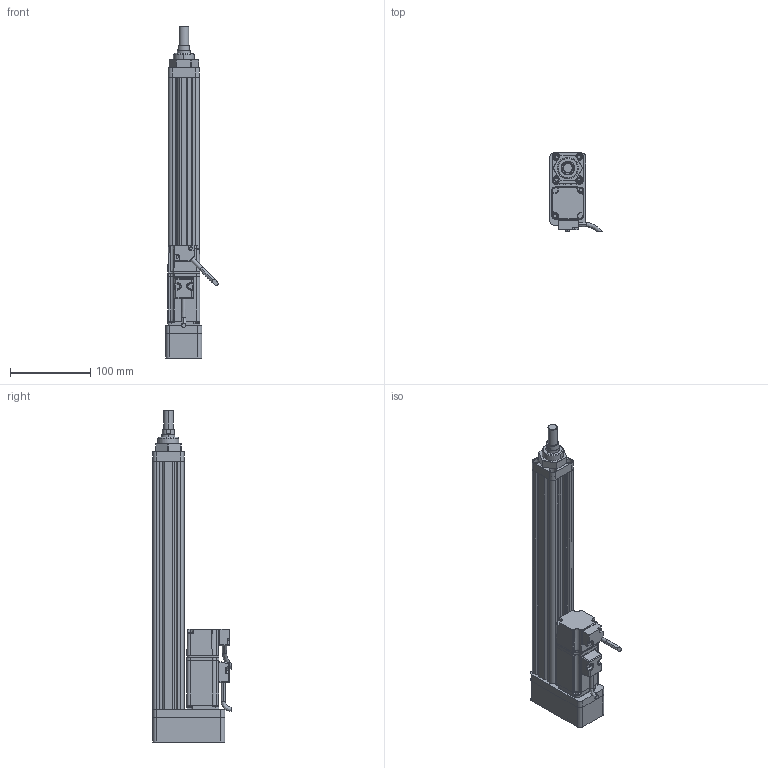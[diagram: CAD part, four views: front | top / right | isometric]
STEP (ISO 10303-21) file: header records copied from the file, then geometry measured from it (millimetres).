
FILE_DESCRIPTION (( 'STEP AP214' ), '1' );
FILE_NAME ('039-S250-D02-B-M4-C1-2.STEP', '2021-02-25T08:54:51', ( '' ), ( '' ), 'SwSTEP 2.0', 'SolidWorks 2018', '' );
FILE_SCHEMA (( 'AUTOMOTIVE_DESIGN' ));
Length unit declared in the file: millimetre
Products named in the file (8): CMC039-GT; ECMA-CX0401ES-40框號系列機種-100W低慣量系列; 039-S250-D02-B-M4-C1-2; CMC039-FL; CMC039-DT; CMC039-LJB; CMC039-HXT; CMC039-M261
Assembly tree (7 placements, depth 2):
  039-S250-D02-B-M4-C1-2
    CMC039-GT
    CMC039-LJB
    CMC039-FL
    CMC039-DT
    ECMA-CX0401ES-40框號系列機種-100W低慣量系列
    CMC039-M261
    CMC039-HXT
Bounding box: 65.34 x 97.89 x 414 mm (x, y, z)
Volume: 548329.9 mm3; surface area: 177500.7 mm2
Topology: 7 solids, 15 shells, 700 faces, 1816 edges, 1128 vertices
Faces by surface type: cylinder 287, plane 270, bspline 84, cone 59
Entity records: 27587 total; most frequent: CARTESIAN_POINT 11136, ORIENTED_EDGE 3566, DIRECTION 2952, EDGE_CURVE 1783, VERTEX_POINT 1128, AXIS2_PLACEMENT_3D 1031, LINE 890, VECTOR 890
